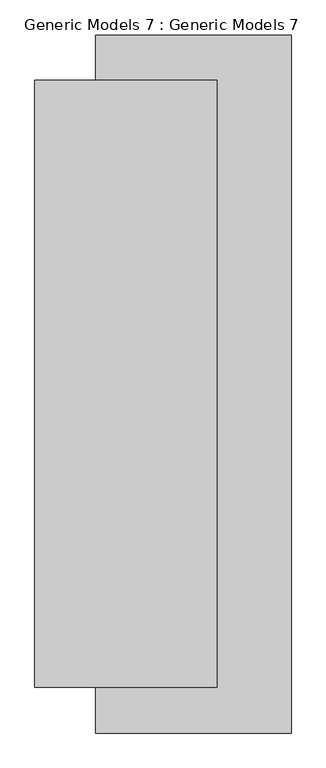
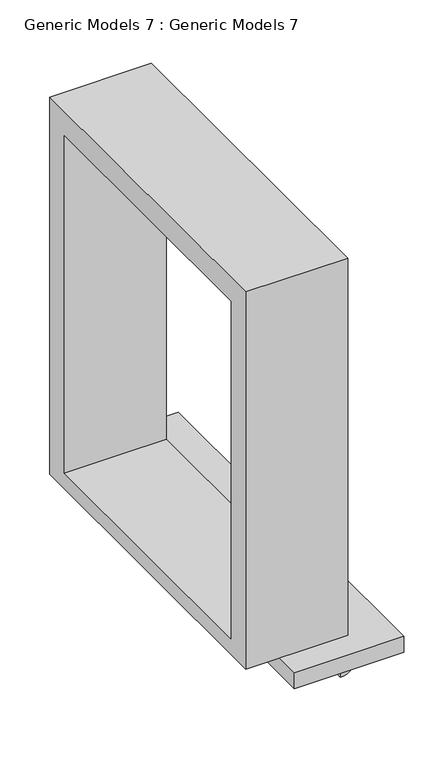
"""IFC4 building model written with IfcOpenShell, lengths in millimetres: proxy geometry, Generic Models 7 : Generic Models 7."""

import ifcopenshell
import ifcopenshell.guid

model = None  # the IFC model being written
_history = None  # IfcOwnerHistory: only IFC2X3 demands one
_inside = {}  # id of a spatial element -> (the spatial element, [elements in it])
_under = {}  # id of a project, library or spatial element -> (it, [spatial elements below it])
_declared = {}  # id of a project -> (the project, [libraries it declares])
_typed = {}  # id of a type object -> (the type object, [elements of that type])
_made_of = {}  # id of a material, layer set ... -> (it, [elements and type objects made of it])


def new_model(schema):
    """Start an empty IFC model of exactly this schema.

    Asked for "IFC4X3", IfcOpenShell would pick the latest addendum, in which some entities
    have other attributes; the version numbers below select the first issue.
    IFC2X3 requires an IfcOwnerHistory on every rooted entity: one is made here for all.
    """
    global model, _history
    if schema == "IFC4X3":
        model = ifcopenshell.file(schema_version=(4, 3, 0, 0))
    else:
        model = ifcopenshell.file(schema=schema)
    _inside.clear()
    _under.clear()
    _declared.clear()
    _typed.clear()
    _made_of.clear()
    _history = None
    if model.schema == "IFC2X3":
        org = make("IfcOrganization", Name="unknown")
        user = make(
            "IfcPersonAndOrganization",
            ThePerson=make("IfcPerson", FamilyName="unknown"),
            TheOrganization=org,
        )
        app = make(
            "IfcApplication",
            ApplicationDeveloper=org,
            Version="unknown",
            ApplicationFullName="unknown",
            ApplicationIdentifier="unknown",
        )
        _history = make(
            "IfcOwnerHistory",
            OwningUser=user,
            OwningApplication=app,
            ChangeAction="ADDED",
            CreationDate=0,
        )
    return model


def make(cls, **values):
    """One entity of the class cls with the attributes given. An attribute that is None is left unset."""
    return model.create_entity(
        cls, **{name: value for name, value in values.items() if value is not None}
    )


def rooted(cls, **values):
    """An entity with a GlobalId (a new one), such as an element, a storey or a relation."""
    return make(cls, GlobalId=ifcopenshell.guid.new(), OwnerHistory=_history, **values)


def si_unit(unit_type, name, prefix=None):
    """IfcSIUnit, for example si_unit("LENGTHUNIT", "METRE", prefix="MILLI")."""
    return make("IfcSIUnit", UnitType=unit_type, Prefix=prefix, Name=name)


def assignment(units):
    """IfcUnitAssignment: the units of a project."""
    return None if units is None else make("IfcUnitAssignment", Units=units)


def point(xyz):
    """IfcCartesianPoint."""
    return None if xyz is None else make("IfcCartesianPoint", Coordinates=xyz)


def direction(xyz):
    """IfcDirection."""
    return None if xyz is None else make("IfcDirection", DirectionRatios=xyz)


def frame(location, z_axis=None, x_axis=None):
    """IfcAxis2Placement3D, a coordinate frame: its origin and axes. An axis left out is left unset."""
    return make(
        "IfcAxis2Placement3D",
        Location=point(location),
        Axis=direction(z_axis),
        RefDirection=direction(x_axis),
    )


def frame_2d(location, x_axis=None):
    """IfcAxis2Placement2D, a coordinate frame in the plane: its origin and x axis."""
    return make(
        "IfcAxis2Placement2D", Location=point(location), RefDirection=direction(x_axis)
    )


def origin():
    """The frame at (0, 0, 0) with its axes left unset."""
    return frame((0.0, 0.0, 0.0))


def place(relative_to, where):
    """IfcLocalPlacement: puts the frame where relative to a parent placement (None: the world)."""
    return make(
        "IfcLocalPlacement", PlacementRelTo=relative_to, RelativePlacement=where
    )


def context(
    kind, dimensions, precision=None, world=None, true_north=None, identifier=None
):
    """IfcGeometricRepresentationContext, for example the 3D "Model" context."""
    return make(
        "IfcGeometricRepresentationContext",
        ContextIdentifier=identifier,
        ContextType=kind,
        CoordinateSpaceDimension=dimensions,
        Precision=precision,
        WorldCoordinateSystem=world,
        TrueNorth=true_north,
    )


def project(units=None, contexts=None):
    """IfcProject with its units and contexts."""
    return rooted(
        "IfcProject",
        Name="project",
        RepresentationContexts=contexts,
        UnitsInContext=assignment(units),
    )


def spatial(cls, under=None, at=None, **own):
    """A site, building, storey or space (cls), placed at a placement, below another one or the project."""
    s = rooted(cls, ObjectPlacement=at, **own)
    if under is not None:
        _under.setdefault(under.id(), (under, []))[1].append(s)
    return s


def polyline(points):
    """IfcPolyline through the points."""
    return make("IfcPolyline", Points=[point(p) for p in points])


def circle_curve(where, radius):
    """IfcCircle in the frame where."""
    return make("IfcCircle", Position=where, Radius=radius)


def trimmed(basis, trim1, trim2, sense, master):
    """IfcTrimmedCurve: the piece of a basis curve between two trims."""
    return make(
        "IfcTrimmedCurve",
        BasisCurve=basis,
        Trim1=trim1,
        Trim2=trim2,
        SenseAgreement=sense,
        MasterRepresentation=master,
    )


def segment(curve, same_sense, transition):
    """IfcCompositeCurveSegment."""
    return make(
        "IfcCompositeCurveSegment",
        Transition=transition,
        SameSense=same_sense,
        ParentCurve=curve,
    )


def composite_curve(segments, self_intersect=None):
    """IfcCompositeCurve: segments joined end to end."""
    return make("IfcCompositeCurve", Segments=segments, SelfIntersect=self_intersect)


def outline(outer, holes=None, kind="AREA"):
    """IfcArbitraryClosedProfileDef: a profile drawn as a closed curve; with holes, ...WithVoids."""
    if holes is None:
        return make("IfcArbitraryClosedProfileDef", ProfileType=kind, OuterCurve=outer)
    return make(
        "IfcArbitraryProfileDefWithVoids",
        ProfileType=kind,
        OuterCurve=outer,
        InnerCurves=holes,
    )


def extrude(swept, where, along, depth):
    """IfcExtrudedAreaSolid: the profile swept, set in the frame where, extruded along a direction by depth."""
    return make(
        "IfcExtrudedAreaSolid",
        SweptArea=swept,
        Position=where,
        ExtrudedDirection=direction(along),
        Depth=depth,
    )


def shape(context_of_items, identifier, shape_type, items):
    """IfcShapeRepresentation: the items that make up one representation, for example the "Body"."""
    return make(
        "IfcShapeRepresentation",
        ContextOfItems=context_of_items,
        RepresentationIdentifier=identifier,
        RepresentationType=shape_type,
        Items=items,
    )


def source(mapping_origin, context_of_items, identifier, shape_type, items):
    """IfcRepresentationMap: a shape defined once, which mapped items show again and again."""
    return make(
        "IfcRepresentationMap",
        MappingOrigin=mapping_origin,
        MappedRepresentation=shape(context_of_items, identifier, shape_type, items),
    )


def transform(
    local_origin,
    x_axis=None,
    y_axis=None,
    z_axis=None,
    scale=None,
    scale2=None,
    scale3=None,
    uniform=True,
):
    """IfcCartesianTransformationOperator3D, or its non-uniform kind. x_axis, y_axis, z_axis: its Axis1, 2, 3."""
    if uniform:
        return make(
            "IfcCartesianTransformationOperator3D",
            Axis1=direction(x_axis),
            Axis2=direction(y_axis),
            LocalOrigin=point(local_origin),
            Scale=scale,
            Axis3=direction(z_axis),
        )
    return make(
        "IfcCartesianTransformationOperator3DnonUniform",
        Axis1=direction(x_axis),
        Axis2=direction(y_axis),
        LocalOrigin=point(local_origin),
        Scale=scale,
        Axis3=direction(z_axis),
        Scale2=scale2,
        Scale3=scale3,
    )


def mapped(mapping_source, mapping_target):
    """IfcMappedItem: shows the shape of a source again, moved by a transform."""
    return make(
        "IfcMappedItem", MappingSource=mapping_source, MappingTarget=mapping_target
    )


def made_of(thing, what):
    """Note that an element or type object is made of a material, layer set ...; save() writes the relation."""
    if what is not None:
        _made_of.setdefault(what.id(), (what, []))[1].append(thing)
    return thing


def element(
    cls,
    number,
    at=None,
    inside=None,
    cuts=None,
    type_object=None,
    material=None,
    context=None,
    identifier="Body",
    shape_type=None,
    held_by="IfcProductDefinitionShape",
    body=None,
    shapes=None,
    **own,
):
    """One element of the class cls, such as IfcWall. Its Tag is "e" and its number.

    at: its placement. inside: the storey or other place that contains it. cuts: it is an
    opening in that element (IfcRelVoidsElement). A single representation is given by context,
    identifier, shape_type and body (its items); several are given by shapes. held_by: the class
    of the entity that holds the representations. save() writes the other relations.
    """
    e = rooted(cls, Tag="e%d" % number, ObjectPlacement=at, **own)
    if body is not None:
        shapes = [shape(context, identifier, shape_type, body)]
    if shapes is not None:
        e.Representation = make(held_by, Representations=shapes)
    if inside is not None:
        _inside.setdefault(inside.id(), (inside, []))[1].append(e)
    if cuts is not None:
        rooted(
            "IfcRelVoidsElement", RelatingBuildingElement=cuts, RelatedOpeningElement=e
        )
    if type_object is not None:
        _typed.setdefault(type_object.id(), (type_object, []))[1].append(e)
    return made_of(e, material)


def aggregate(whole, parts):
    """IfcRelAggregates: a whole, such as a stair, and the parts it consists of."""
    return rooted("IfcRelAggregates", RelatingObject=whole, RelatedObjects=parts)


def save(model, path):
    """Write the relations noted so far, then the file.

    IfcRelAggregates (storeys below a building ...), IfcRelContainedInSpatialStructure (elements
    in a storey), IfcRelDefinesByType, IfcRelAssociatesMaterial and IfcRelDeclares: one each for
    every whole, place, type object, material and project.
    """
    for whole, parts in _under.values():
        aggregate(whole, parts)
    for where, things in _inside.values():
        rooted(
            "IfcRelContainedInSpatialStructure",
            RelatedElements=things,
            RelatingStructure=where,
        )
    for kind, things in _typed.values():
        rooted("IfcRelDefinesByType", RelatedObjects=things, RelatingType=kind)
    for what, things in _made_of.values():
        rooted("IfcRelAssociatesMaterial", RelatedObjects=things, RelatingMaterial=what)
    for by, libraries in _declared.values():
        rooted("IfcRelDeclares", RelatingContext=by, RelatedDefinitions=libraries)
    model.write(path)


def generic_models_7_generic_models_7_33650070(model_context):
    return source(origin(), model_context, "Body", "SweptSolid", [
        extrude(outline(composite_curve([segment(trimmed(circle_curve(frame_2d((3180.4875198, 13093.9338768)), 106.0660172), [point((3074.4251456, 13093.0547918))], [point((3150.0, 13195.5237933))], False, "CARTESIAN"), True, "CONTINUOUS"), segment(polyline([(3150.0, 13195.5237933), (3150.0, 13000.0001123), (2993.3124077, 13000.0001123)]), True, "CONTINUOUS"), segment(trimmed(circle_curve(frame_2d((3087.2461723, 13000.0001123)), 93.9337645), [point((2993.3124077, 13000.0001123))], [point((3074.4251456, 13093.0547918))], False, "CARTESIAN"), True, "CONTINUOUS")], self_intersect=False)), frame((0.0, 6721.7661592, 0.0), z_axis=(0.0, 1.0, 0.0), x_axis=(0.0, 0.0, 1.0)), (0.0, 0.0, 1.0), 100.0),
        extrude(outline(composite_curve([segment(trimmed(circle_curve(frame_2d((3180.4875198, 13093.9338768)), 106.0660172), [point((3074.4251456, 13093.0547918))], [point((3150.0, 13195.5237933))], False, "CARTESIAN"), True, "CONTINUOUS"), segment(polyline([(3150.0, 13195.5237933), (3150.0, 13000.0001123), (2993.3124077, 13000.0001123)]), True, "CONTINUOUS"), segment(trimmed(circle_curve(frame_2d((3087.2461723, 13000.0001123)), 93.9337645), [point((2993.3124077, 13000.0001123))], [point((3074.4251456, 13093.0547918))], False, "CARTESIAN"), True, "CONTINUOUS")], self_intersect=False)), frame((0.0, 7596.7661592, 0.0), z_axis=(0.0, 1.0, 0.0), x_axis=(0.0, 0.0, 1.0)), (0.0, 0.0, 1.0), 100.0),
        extrude(outline(composite_curve([segment(trimmed(circle_curve(frame_2d((3180.4875198, 13093.9338768)), 106.0660172), [point((3074.4251456, 13093.0547918))], [point((3150.0, 13195.5237933))], False, "CARTESIAN"), True, "CONTINUOUS"), segment(polyline([(3150.0, 13195.5237933), (3150.0, 13000.0001123), (2993.3124077, 13000.0001123)]), True, "CONTINUOUS"), segment(trimmed(circle_curve(frame_2d((3087.2461723, 13000.0001123)), 93.9337645), [point((2993.3124077, 13000.0001123))], [point((3074.4251456, 13093.0547918))], False, "CARTESIAN"), True, "CONTINUOUS")], self_intersect=False)), frame((0.0, 8471.7661592, 0.0), z_axis=(0.0, 1.0, 0.0), x_axis=(0.0, 0.0, 1.0)), (0.0, 0.0, 1.0), 100.0),
        extrude(outline(polyline([(13199.9998939, 8696.7661592), (13199.9998939, 6596.7661592), (12700.0001123, 6596.7661592), (12700.0001123, 8696.7661592), (13199.9998939, 8696.7661592)])), frame((0.0, 0.0, 3150.0), z_axis=(0.0, 0.0, 1.0), x_axis=(1.0, 0.0, 0.0)), (0.0, 0.0, 1.0), 50.0),
        extrude(outline(polyline([(13245.4560588, 8796.7661592), (13245.4560588, 6496.7661592), (12599.9998939, 6496.7661592), (12599.9998939, 8796.7661592), (13245.4560588, 8796.7661592)])), frame((0.0, 0.0, 3200.0), z_axis=(0.0, 0.0, 1.0), x_axis=(1.0, 0.0, 0.0)), (0.0, 0.0, 1.0), 100.0),
        extrude(outline(polyline([(8646.7661592, 5650.0), (8646.7661592, 3300.0), (6646.7661592, 3300.0), (6646.7661592, 5650.0), (8646.7661592, 5650.0)]), holes=[polyline([(6796.7661592, 3400.0), (8496.7661592, 3400.0), (8496.7661592, 5500.0), (6796.7661592, 5500.0), (6796.7661592, 3400.0)])]), frame((12400.0001123, 0.0, 0.0), z_axis=(1.0, 0.0, 0.0), x_axis=(0.0, 1.0, 0.0)), (0.0, 0.0, 1.0), 600.0),
    ])


if __name__ == "__main__":
    model = new_model("IFC4")
    model_context = context("Model", 3, world=origin())
    ifc_project = project(units=[si_unit("LENGTHUNIT", "METRE", prefix="MILLI")], contexts=[model_context])
    site = spatial("IfcSite", under=ifc_project)
    building = spatial("IfcBuilding", under=site)
    placement = place(None, origin())
    generic_models_7_generic_models_7_shape = generic_models_7_generic_models_7_33650070(model_context)
    element("IfcBuildingElementProxy", 1, Name="Generic Models 7 : Generic Models 7", ObjectType="Generic Models 7 : Generic Models 7", at=placement, inside=building, context=model_context, shape_type="MappedRepresentation", body=[
        mapped(generic_models_7_generic_models_7_shape, transform((0.0, 0.0, 0.0), x_axis=(1.0, 0.0, 0.0), y_axis=(0.0, 1.0, 0.0), z_axis=(0.0, 0.0, 1.0))),
    ])
    save(model, "model.ifc")
